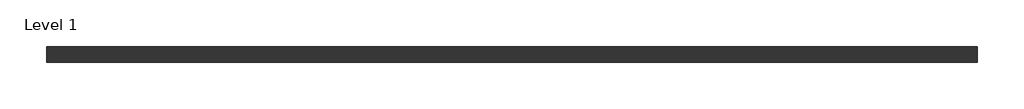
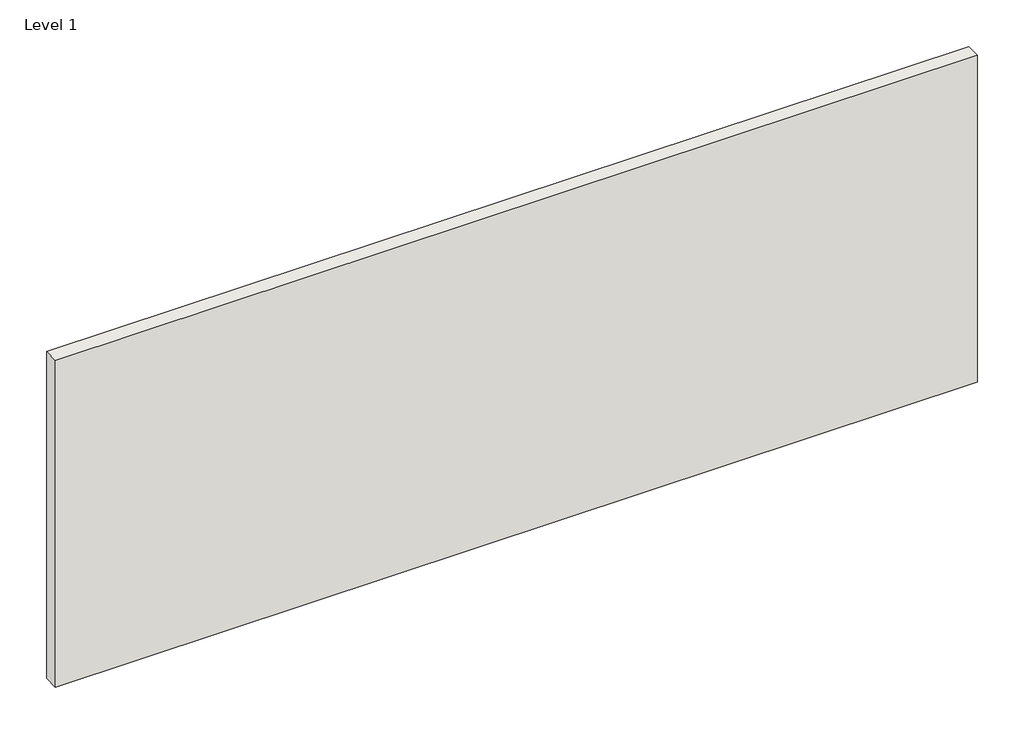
# One storey: 1 wall.
"""IFC4 building model written with IfcOpenShell, lengths in millimetres."""

from ifc_helpers import new_model, si_unit, origin, origin_with_axes, place, context, project, spatial, polyline, outline, extrude, element, save

model = new_model("IFC4")

# Units and contexts
model_context = context("Model", 3, world=origin())
ifc_project = project(units=[si_unit("LENGTHUNIT", "METRE", prefix="MILLI")], contexts=[model_context])

# Site, building, storey
site = spatial("IfcSite", under=ifc_project)
building = spatial("IfcBuilding", under=site)
storey = spatial("IfcBuildingStorey", under=building, Name="Level 1", Elevation=0.0)

# Wall
placement = place(None, origin())
element("IfcWall", 1, ObjectType="Generic - 200mm", at=placement, inside=storey, context=model_context, shape_type="SweptSolid", body=[
    extrude(outline(polyline([(-7404.2387135, 17261.4558061), (4595.7612865, 17261.4558061), (4595.7612865, 17061.4558061), (-7404.2387135, 17061.4558061), (-7404.2387135, 17261.4558061)])), origin_with_axes(), (0.0, 0.0, 1.0), 4500.0),
])

save(model, "model.ifc")
